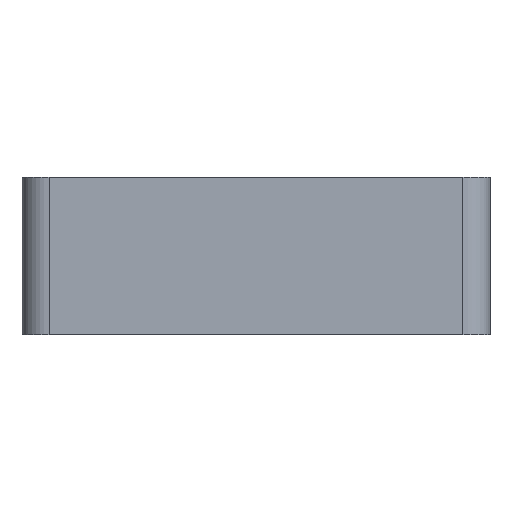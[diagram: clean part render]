
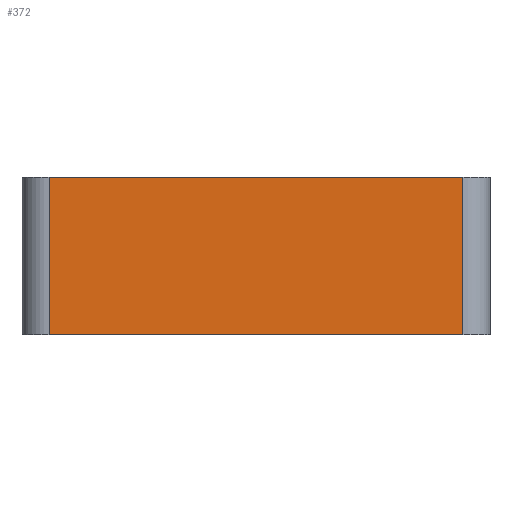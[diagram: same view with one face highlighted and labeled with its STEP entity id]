
A CAD part, left-side view. The second image highlights one B-rep face of the part: STEP entity #372.
In plain terms, the highlighted planar face has unit normal (-1, 0, 0).
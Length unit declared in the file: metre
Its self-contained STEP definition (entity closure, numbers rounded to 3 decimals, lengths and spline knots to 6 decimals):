
#54=ORIENTED_EDGE('',*,*,#157,.F.);
#55=ORIENTED_EDGE('',*,*,#158,.F.);
#56=ORIENTED_EDGE('',*,*,#159,.T.);
#57=ORIENTED_EDGE('',*,*,#155,.T.);
#155=EDGE_CURVE('',#205,#204,#240,.T.);
#157=EDGE_CURVE('',#206,#204,#241,.T.);
#158=EDGE_CURVE('',#207,#206,#242,.T.);
#159=EDGE_CURVE('',#207,#205,#243,.T.);
#204=VERTEX_POINT('',#575);
#205=VERTEX_POINT('',#577);
#206=VERTEX_POINT('',#581);
#207=VERTEX_POINT('',#583);
#240=LINE('',#576,#282);
#241=LINE('',#580,#283);
#242=LINE('',#582,#284);
#243=LINE('',#584,#285);
#282=VECTOR('',#467,1.);
#283=VECTOR('',#472,1.);
#284=VECTOR('',#473,1.);
#285=VECTOR('',#474,1.);
#318=EDGE_LOOP('',(#54,#55,#56,#57));
#338=FACE_BOUND('',#318,.T.);
#355=PLANE('',#411);
#372=ADVANCED_FACE('',(#338),#355,.T.);
#411=AXIS2_PLACEMENT_3D('',#579,#470,#471);
#467=DIRECTION('',(0.,0.,-1.));
#470=DIRECTION('',(-1.,0.,0.));
#471=DIRECTION('',(0.,0.,1.));
#472=DIRECTION('',(0.,1.,0.));
#473=DIRECTION('',(0.,0.,-1.));
#474=DIRECTION('',(0.,1.,0.));
#575=CARTESIAN_POINT('',(0.,0.00814,-0.00145));
#576=CARTESIAN_POINT('',(0.,0.00814,0.00145));
#577=CARTESIAN_POINT('',(0.,0.00814,0.00145));
#579=CARTESIAN_POINT('',(0.,0.00432,0.00145));
#580=CARTESIAN_POINT('',(0.,0.00432,-0.00145));
#581=CARTESIAN_POINT('',(0.,0.0005,-0.00145));
#582=CARTESIAN_POINT('',(0.,0.0005,0.00145));
#583=CARTESIAN_POINT('',(0.,0.0005,0.00145));
#584=CARTESIAN_POINT('',(0.,0.00432,0.00145));
